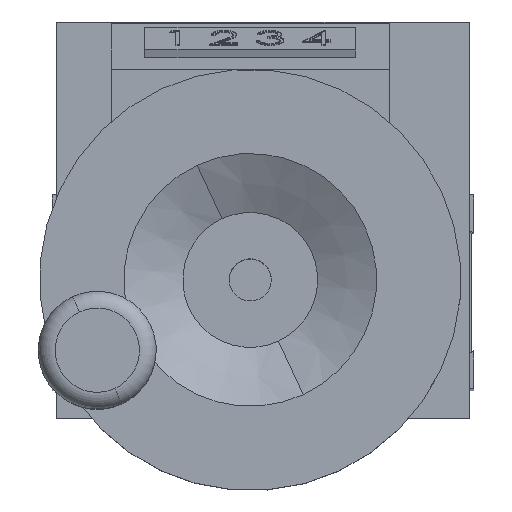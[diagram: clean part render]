
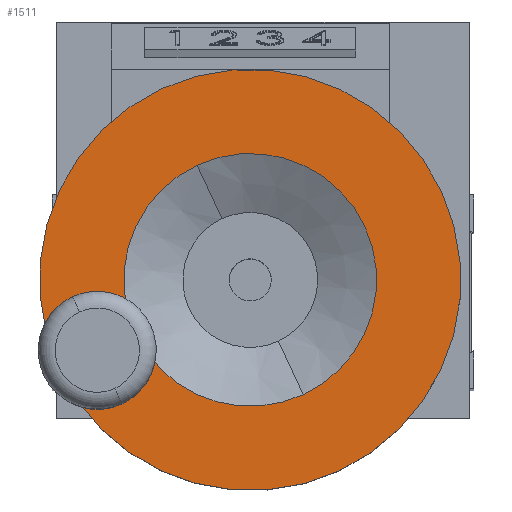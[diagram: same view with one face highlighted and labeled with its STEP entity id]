
A CAD part, top view. The second image highlights one B-rep face of the part: STEP entity #1511.
In plain terms, the highlighted planar face has unit normal (0, 0, 1) as drawn and (1, 0, 0) by its records, which use the part's own axes.
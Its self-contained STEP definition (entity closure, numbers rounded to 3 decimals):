
#234 = ORIENTED_EDGE ( 'NONE', *, *, #285, .T. ) ;
#285 = EDGE_CURVE ( 'NONE', #2999, #3059, #2168, .T. ) ;
#323 = EDGE_CURVE ( 'NONE', #7081, #504, #2457, .T. ) ;
#504 = VERTEX_POINT ( 'NONE', #3526 ) ;
#710 = EDGE_LOOP ( 'NONE', ( #234, #3889 ) ) ;
#1366 = VERTEX_POINT ( 'NONE', #5644 ) ;
#1511 = ADVANCED_FACE ( 'NONE', ( #5686, #5687, #5688 ), #5689, .T. ) ;
#1709 = CIRCLE ( 'NONE', #1710, 15. ) ;
#1710 = AXIS2_PLACEMENT_3D ( 'NONE', #1711, #1712, #1713 ) ;
#1711 = CARTESIAN_POINT ( 'NONE',  ( 22., 0., 0. ) ) ;
#1712 = DIRECTION ( 'NONE',  ( -1., 0., 0. ) ) ;
#1713 = DIRECTION ( 'NONE',  ( 0., 0., 1. ) ) ;
#2168 = CIRCLE ( 'NONE', #2169, 15. ) ;
#2169 = AXIS2_PLACEMENT_3D ( 'NONE', #2170, #2171, #2172 ) ;
#2170 = CARTESIAN_POINT ( 'NONE',  ( 22., 0., 0. ) ) ;
#2171 = DIRECTION ( 'NONE',  ( -1., 0., 0. ) ) ;
#2172 = DIRECTION ( 'NONE',  ( 0., 0., 1. ) ) ;
#2457 = CIRCLE ( 'NONE', #2458, 4. ) ;
#2458 = AXIS2_PLACEMENT_3D ( 'NONE', #2459, #2460, #2461 ) ;
#2459 = CARTESIAN_POINT ( 'NONE',  ( 22., 20., 0. ) ) ;
#2460 = DIRECTION ( 'NONE',  ( 1., 0., 0. ) ) ;
#2461 = DIRECTION ( 'NONE',  ( 0., 0., -1. ) ) ;
#2681 = CARTESIAN_POINT ( 'NONE',  ( 22., 20., 4. ) ) ;
#2849 = CIRCLE ( 'NONE', #2850, 4. ) ;
#2850 = AXIS2_PLACEMENT_3D ( 'NONE', #2851, #2852, #2853 ) ;
#2851 = CARTESIAN_POINT ( 'NONE',  ( 22., 20., 0. ) ) ;
#2852 = DIRECTION ( 'NONE',  ( 1., 0., 0. ) ) ;
#2853 = DIRECTION ( 'NONE',  ( 0., 0., -1. ) ) ;
#2999 = VERTEX_POINT ( 'NONE', #6724 ) ;
#3059 = VERTEX_POINT ( 'NONE', #6827 ) ;
#3333 = EDGE_LOOP ( 'NONE', ( #6519, #8194 ) ) ;
#3411 = EDGE_LOOP ( 'NONE', ( #7904, #8430 ) ) ;
#3526 = CARTESIAN_POINT ( 'NONE',  ( 22., 20., -4. ) ) ;
#3745 = CARTESIAN_POINT ( 'NONE',  ( 22., 0., -25. ) ) ;
#3889 = ORIENTED_EDGE ( 'NONE', *, *, #5786, .T. ) ;
#5644 = CARTESIAN_POINT ( 'NONE',  ( 22., 0., 25. ) ) ;
#5686 = FACE_OUTER_BOUND ( 'NONE', #3333, .T. ) ;
#5687 = FACE_BOUND ( 'NONE', #710, .T. ) ;
#5688 = FACE_BOUND ( 'NONE', #3411, .T. ) ;
#5689 = PLANE ( 'NONE',  #5690 ) ;
#5690 = AXIS2_PLACEMENT_3D ( 'NONE', #5691, #5695, #5696 ) ;
#5691 = CARTESIAN_POINT ( 'NONE',  ( 22., 25., 0. ) ) ;
#5695 = DIRECTION ( 'NONE',  ( 1., 0., 0. ) ) ;
#5696 = DIRECTION ( 'NONE',  ( 0., 0., -1. ) ) ;
#5786 = EDGE_CURVE ( 'NONE', #3059, #2999, #1709, .T. ) ;
#5829 = CIRCLE ( 'NONE', #5830, 25. ) ;
#5830 = AXIS2_PLACEMENT_3D ( 'NONE', #5831, #5832, #5833 ) ;
#5831 = CARTESIAN_POINT ( 'NONE',  ( 22., 0., 0. ) ) ;
#5832 = DIRECTION ( 'NONE',  ( -1., 0., 0. ) ) ;
#5833 = DIRECTION ( 'NONE',  ( 0., 0., 1. ) ) ;
#6519 = ORIENTED_EDGE ( 'NONE', *, *, #8302, .F. ) ;
#6724 = CARTESIAN_POINT ( 'NONE',  ( 22., 0., -15. ) ) ;
#6827 = CARTESIAN_POINT ( 'NONE',  ( 22., 0., 15. ) ) ;
#7081 = VERTEX_POINT ( 'NONE', #2681 ) ;
#7192 = CIRCLE ( 'NONE', #7193, 25. ) ;
#7193 = AXIS2_PLACEMENT_3D ( 'NONE', #7194, #7195, #7196 ) ;
#7194 = CARTESIAN_POINT ( 'NONE',  ( 22., 0., 0. ) ) ;
#7195 = DIRECTION ( 'NONE',  ( -1., 0., 0. ) ) ;
#7196 = DIRECTION ( 'NONE',  ( 0., 0., 1. ) ) ;
#7297 = EDGE_CURVE ( 'NONE', #504, #7081, #2849, .T. ) ;
#7904 = ORIENTED_EDGE ( 'NONE', *, *, #323, .F. ) ;
#7967 = VERTEX_POINT ( 'NONE', #3745 ) ;
#8194 = ORIENTED_EDGE ( 'NONE', *, *, #8569, .F. ) ;
#8302 = EDGE_CURVE ( 'NONE', #1366, #7967, #5829, .T. ) ;
#8430 = ORIENTED_EDGE ( 'NONE', *, *, #7297, .F. ) ;
#8569 = EDGE_CURVE ( 'NONE', #7967, #1366, #7192, .T. ) ;
